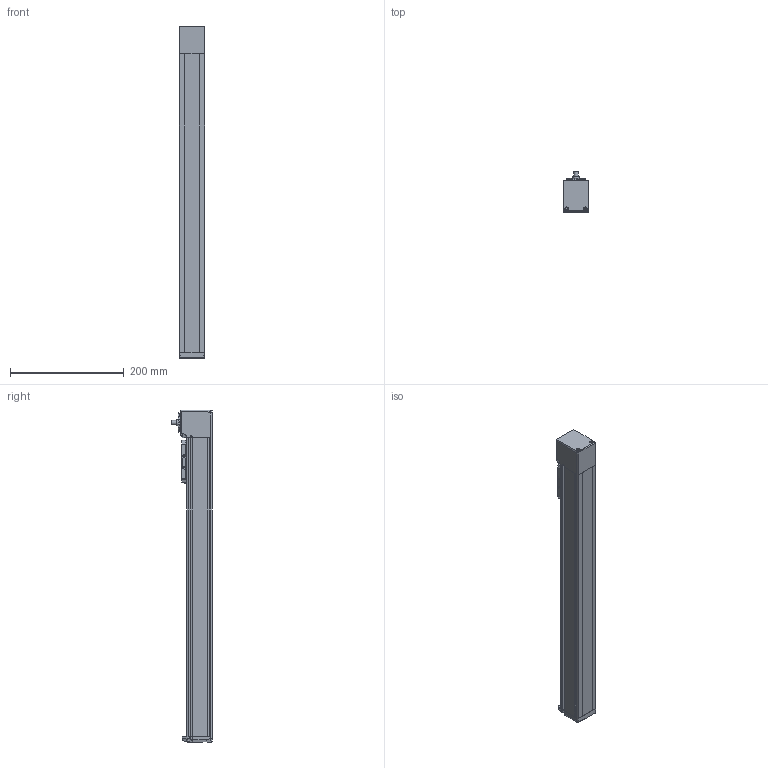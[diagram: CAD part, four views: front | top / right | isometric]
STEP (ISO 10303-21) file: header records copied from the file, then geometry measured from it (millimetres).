
FILE_DESCRIPTION(/* description */ ('STEP AP214'),/* implementation_level */ '2;1');
FILE_NAME(/* name */ 'MGTB 45 400(0)',/* time_stamp */ '2023-04-17T13:44:39+02:00',/* author */ ('License CC BY-ND 4.0'),/* organization */ ('CADENAS'),/* preprocessor_version */ 'ST-DEVELOPER v19.3',/* originating_system */ 'PARTsolutions',/* authorisation */ ' ');
FILE_SCHEMA (('AUTOMOTIVE_DESIGN {1 0 10303 214 3 1 1}'));
Length unit declared in the file: millimetre
Products named in the file (6): MGTB 45 400(0); MGTB 45 400_protection_strip; MGTB 45_carriage; MGTB 45_end_block; MGTB 45 400_profile; MGTB 45_drive_block
Assembly tree (5 placements, depth 2):
  MGTB 45 400(0)
    MGTB 45 400_protection_strip
    MGTB 45_carriage
    MGTB 45_end_block
    MGTB 45 400_profile
    MGTB 45_drive_block
Bounding box: 45 x 70.85 x 583 mm (x, y, z)
Volume: 1165168.3 mm3; surface area: 186560.5 mm2
Topology: 5 solids, 5 shells, 689 faces, 1789 edges, 1148 vertices
Faces by surface type: plane 324, cylinder 173, cone 95, bspline 68, torus 27, sphere 2
Full cylindrical faces by diameter (mm): 1.755 x4, 2.459 x10, 2.5 x6, 3 x6, 3.242 x8, 3.8 x6, 4 x2, 4.5 x2, 5.5 x4, 6.5 x4, 8 x1, 11 x3, 12 x1, 17.12 x1, 17.5 x1, 22.5 x1, 22.88 x1, 24.5 x1, 28 x1, 34 x2
Entity records: 25091 total; most frequent: CARTESIAN_POINT 4283, DIRECTION 3440, ORIENTED_EDGE 3206, EDGE_CURVE 1603, AXIS2_PLACEMENT_3D 1244, VERTEX_POINT 1133, LINE 952, VECTOR 952
